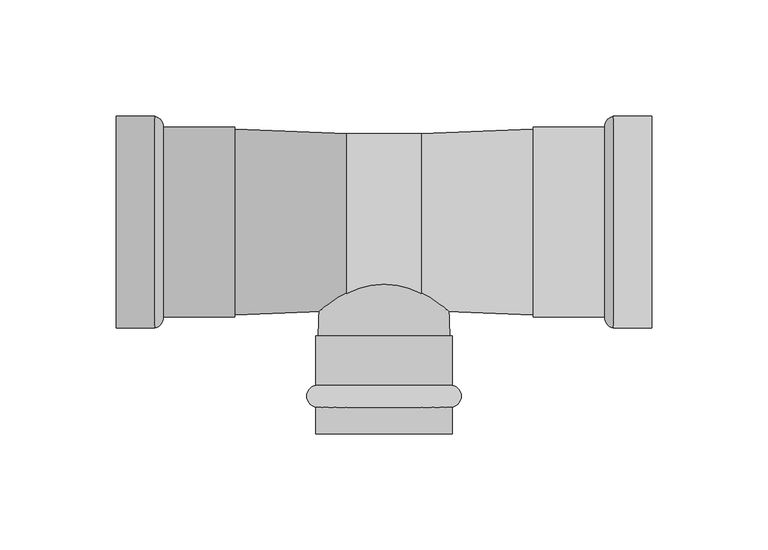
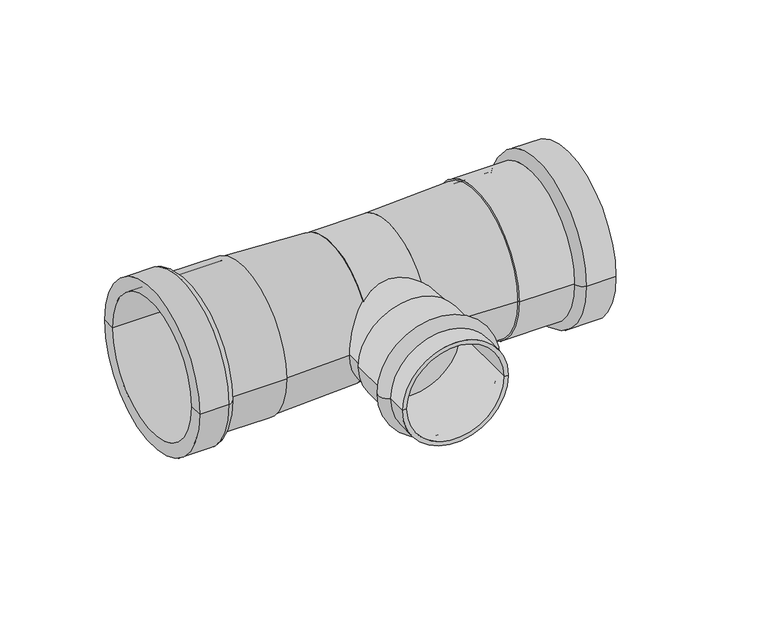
"""IFC4 building model written with IfcOpenShell, lengths in millimetres: pipe fitting geometry, VALTEC_VTi.931.I_Тройник_Ннержавеющая сталь : VTi.931.I."""

from ifc_helpers import new_model, si_unit, point, frame, origin, origin_2d, place, context, project, spatial, polyline, circle_curve, ellipse_curve, trimmed, segment, composite_curve, outline, extrude, source, transform, mapped, element, save
from ifc_brep_helpers import plane_surface, cylinder_surface, revolved_surface, advanced_brep


def pipe_fitting_104a81ea(model_context):
    return source(origin(), model_context, "Body", "SolidModel", [
        advanced_brep(
        [(29.3, -79.6148701, 0.0), (-29.3, -79.6148701, 0.0), (-29.3, -70.1851299, 0.0), (29.3, -70.1851299, 0.0), (29.3, -91.0, 0.0), (-29.3, -91.0, 0.0), (27.0, -91.0, 0.0), (-27.0, -91.0, 0.0), (27.0, -49.0, 0.0), (-27.0, -49.0, 0.0), (29.3, -49.0, 0.0), (-29.3, -49.0, 0.0)],
        [
            (0, 1, circle_curve(frame((0.0, -79.6148701, 0.0), z_axis=(0.0, 1.0, 0.0), x_axis=(-1.0, 0.0, 0.0)), 29.3)),
            (1, 2, circle_curve(frame((-28.4, -74.9, 0.0), z_axis=(0.0, 0.0, -1.0), x_axis=(0.0, 1.0, 0.0)), 4.8)),
            (2, 3, circle_curve(frame((0.0, -70.1851299, 0.0), z_axis=(0.0, -1.0, 0.0), x_axis=(-1.0, 0.0, 0.0)), 29.3)),
            (3, 0, circle_curve(frame((28.4, -74.9, 0.0), z_axis=(0.0, 0.0, -1.0), x_axis=(0.0, 1.0, 0.0)), 4.8)),
            (1, 0, circle_curve(frame((0.0, -79.6148701, 0.0), z_axis=(0.0, 1.0, 0.0), x_axis=(-1.0, 0.0, 0.0)), 29.3)),
            (3, 2, circle_curve(frame((0.0, -70.1851299, 0.0), z_axis=(0.0, -1.0, 0.0), x_axis=(-1.0, 0.0, 0.0)), 29.3)),
            (4, 5, circle_curve(frame((0.0, -91.0, 0.0), z_axis=(0.0, 1.0, 0.0), x_axis=(-1.0, 0.0, 0.0)), 29.3)),
            (5, 1),
            (0, 4),
            (5, 4, circle_curve(frame((0.0, -91.0, 0.0), z_axis=(0.0, 1.0, 0.0), x_axis=(-1.0, 0.0, 0.0)), 29.3)),
            (6, 7, circle_curve(frame((0.0, -91.0, 0.0), z_axis=(0.0, 1.0, 0.0), x_axis=(-1.0, 0.0, 0.0)), 27.0)),
            (7, 5),
            (4, 6),
            (7, 6, circle_curve(frame((0.0, -91.0, 0.0), z_axis=(0.0, 1.0, 0.0), x_axis=(-1.0, 0.0, 0.0)), 27.0)),
            (8, 9, circle_curve(frame((0.0, -49.0, 0.0), z_axis=(0.0, 1.0, 0.0), x_axis=(-1.0, 0.0, 0.0)), 27.0)),
            (9, 7),
            (6, 8),
            (9, 8, circle_curve(frame((0.0, -49.0, 0.0), z_axis=(0.0, 1.0, 0.0), x_axis=(-1.0, 0.0, 0.0)), 27.0)),
            (10, 11, circle_curve(frame((0.0, -49.0, 0.0), z_axis=(0.0, 1.0, 0.0), x_axis=(-1.0, 0.0, 0.0)), 29.3)),
            (11, 9),
            (8, 10),
            (11, 10, circle_curve(frame((0.0, -49.0, 0.0), z_axis=(0.0, 1.0, 0.0), x_axis=(-1.0, 0.0, 0.0)), 29.3)),
            (2, 11),
            (10, 3),
        ],
        [
            revolved_surface(trimmed(ellipse_curve(frame((-28.4, -74.9, 0.0), z_axis=(0.0, 0.0, 1.0), x_axis=(0.0, 1.0, 0.0)), 4.8, 4.8), [point((-29.3, -70.1851299, 0.0))], [point((-29.3, -79.6148701, 0.0))], True, "CARTESIAN"), (0.0, -94.5364426, 0.0), (0.0, -1.0, 0.0)),
            cylinder_surface(frame((0.0, -94.5364426, 0.0), z_axis=(0.0, -1.0, 0.0), x_axis=(-1.0, 0.0, 0.0)), 29.3),
            plane_surface(frame((0.0, -91.0, 0.0), z_axis=(0.0, -1.0, 0.0), x_axis=(-1.0, 0.0, 0.0))),
            revolved_surface(polyline([(-27.0, -91.0, 0.0), (-27.0, -49.0, 0.0)]), (0.0, -94.5364426, 0.0), (0.0, -1.0, 0.0)),
            plane_surface(frame((0.0, -49.0, 0.0), z_axis=(0.0, 1.0, 0.0), x_axis=(-1.0, 0.0, 0.0))),
        ],
        [
            (0, [[1, 2, 3, 4]]),
            (0, [[5, -4, 6, -2]]),
            (1, [[7, 8, -1, 9]]),
            (1, [[10, -9, -5, -8]]),
            (2, [[11, 12, -7, 13]]),
            (2, [[14, -13, -10, -12]]),
            (3, [[15, 16, -11, 17]]),
            (3, [[18, -17, -14, -16]]),
            (4, [[19, 20, -15, 21]]),
            (4, [[22, -21, -18, -20]]),
            (1, [[-3, 23, -19, 24]]),
            (1, [[-6, -24, -22, -23]]),
        ],
    ),
        advanced_brep(
        [(115.0, -38.05, 0.0), (115.0, -45.5, 0.0), (115.0, 45.5, 0.0), (115.0, 38.05, 0.0), (64.19, -38.05, 0.0), (64.19, 38.05, 0.0), (64.19, -40.75, 0.0), (64.19, 40.75, 0.0), (94.75, -40.75, 0.0), (94.75, 40.75, 0.0), (98.6, -45.5, 0.0), (98.6, 45.5, 0.0)],
        [
            (0, 1),
            (1, 2, circle_curve(frame((115.0, 0.0, 0.0), z_axis=(1.0, 0.0, 0.0), x_axis=(0.0, 1.0, 0.0)), 45.5)),
            (2, 3),
            (3, 0, circle_curve(frame((115.0, 0.0, 0.0), z_axis=(-1.0, 0.0, 0.0), x_axis=(0.0, 1.0, 0.0)), 38.05)),
            (2, 1, circle_curve(frame((115.0, 0.0, 0.0), z_axis=(1.0, 0.0, 0.0), x_axis=(0.0, 1.0, 0.0)), 45.5)),
            (0, 3, circle_curve(frame((115.0, 0.0, 0.0), z_axis=(-1.0, 0.0, 0.0), x_axis=(0.0, 1.0, 0.0)), 38.05)),
            (4, 0),
            (3, 5),
            (5, 4, circle_curve(frame((64.19, 0.0, 0.0), z_axis=(-1.0, 0.0, 0.0), x_axis=(0.0, 1.0, 0.0)), 38.05)),
            (4, 5, circle_curve(frame((64.19, 0.0, 0.0), z_axis=(-1.0, 0.0, 0.0), x_axis=(0.0, 1.0, 0.0)), 38.05)),
            (6, 4),
            (5, 7),
            (7, 6, circle_curve(frame((64.19, 0.0, 0.0), z_axis=(-1.0, 0.0, 0.0), x_axis=(0.0, 1.0, 0.0)), 40.75)),
            (6, 7, circle_curve(frame((64.19, 0.0, 0.0), z_axis=(-1.0, 0.0, 0.0), x_axis=(0.0, 1.0, 0.0)), 40.75)),
            (8, 6),
            (7, 9),
            (9, 8, circle_curve(frame((94.75, 0.0, 0.0), z_axis=(-1.0, 0.0, 0.0), x_axis=(0.0, 1.0, 0.0)), 40.75)),
            (8, 9, circle_curve(frame((94.75, 0.0, 0.0), z_axis=(-1.0, 0.0, 0.0), x_axis=(0.0, 1.0, 0.0)), 40.75)),
            (10, 8, circle_curve(frame((99.4665873, -40.862345, 0.0), z_axis=(0.0, 0.0, -1.0), x_axis=(-1.0, 0.0, 0.0)), 4.7179251)),
            (9, 11, circle_curve(frame((99.4665873, 40.862345, 0.0), z_axis=(0.0, 0.0, -1.0), x_axis=(-1.0, 0.0, 0.0)), 4.7179251)),
            (11, 10, circle_curve(frame((98.6, 0.0, 0.0), z_axis=(-1.0, 0.0, 0.0), x_axis=(0.0, 1.0, 0.0)), 45.5)),
            (10, 11, circle_curve(frame((98.6, 0.0, 0.0), z_axis=(-1.0, 0.0, 0.0), x_axis=(0.0, 1.0, 0.0)), 45.5)),
            (1, 10),
            (11, 2),
        ],
        [
            plane_surface(frame((115.0, 0.0, 0.0), z_axis=(1.0, 0.0, 0.0), x_axis=(0.0, 1.0, 0.0))),
            revolved_surface(polyline([(115.0, 38.05, 0.0), (64.19, 38.05, 0.0)]), (85.1506392, 0.0, 0.0), (1.0, 0.0, 0.0)),
            plane_surface(frame((64.19, 0.0, 0.0), z_axis=(-1.0, 0.0, 0.0), x_axis=(0.0, 1.0, 0.0))),
            cylinder_surface(frame((85.1506392, 0.0, 0.0), z_axis=(1.0, 0.0, 0.0), x_axis=(0.0, 1.0, 0.0)), 40.75),
            revolved_surface(trimmed(ellipse_curve(frame((99.4665873, 40.862345, 0.0), z_axis=(0.0, 0.0, -1.0), x_axis=(-1.0, 0.0, 0.0)), 4.7179251, 4.7179251), [point((94.75, 40.75, 0.0))], [point((98.6, 45.5, 0.0))], True, "CARTESIAN"), (85.1506392, 0.0, 0.0), (1.0, 0.0, 0.0)),
            cylinder_surface(frame((85.1506392, 0.0, 0.0), z_axis=(1.0, 0.0, 0.0), x_axis=(0.0, 1.0, 0.0)), 45.5),
        ],
        [
            (0, [[1, 2, 3, 4]]),
            (0, [[-3, 5, -1, 6]]),
            (1, [[7, -4, 8, 9]]),
            (1, [[-8, -6, -7, 10]]),
            (2, [[11, -9, 12, 13]]),
            (2, [[-12, -10, -11, 14]]),
            (3, [[15, -13, 16, 17]]),
            (3, [[-16, -14, -15, 18]]),
            (4, [[19, -17, 20, 21]]),
            (4, [[-20, -18, -19, 22]]),
            (5, [[23, -21, 24, -2]]),
            (5, [[-24, -22, -23, -5]]),
        ],
    ),
        advanced_brep(
        [(-115.0, -38.05, 0.0), (-115.0, 38.05, 0.0), (-115.0, 45.5, 0.0), (-115.0, -45.5, 0.0), (-64.19, -38.05, 0.0), (-64.19, 38.05, 0.0), (-64.19, -40.75, 0.0), (-64.19, 40.75, 0.0), (-94.75, -40.75, 0.0), (-94.75, 40.75, 0.0), (-98.6, -45.5, 0.0), (-98.6, 45.5, 0.0)],
        [
            (0, 1, circle_curve(frame((-115.0, 0.0, 0.0), z_axis=(1.0, 0.0, 0.0), x_axis=(0.0, 1.0, 0.0)), 38.05)),
            (1, 2),
            (2, 3, circle_curve(frame((-115.0, 0.0, 0.0), z_axis=(-1.0, 0.0, 0.0), x_axis=(0.0, 1.0, 0.0)), 45.5)),
            (3, 0),
            (1, 0, circle_curve(frame((-115.0, 0.0, 0.0), z_axis=(1.0, 0.0, 0.0), x_axis=(0.0, 1.0, 0.0)), 38.05)),
            (3, 2, circle_curve(frame((-115.0, 0.0, 0.0), z_axis=(-1.0, 0.0, 0.0), x_axis=(0.0, 1.0, 0.0)), 45.5)),
            (4, 5, circle_curve(frame((-64.19, 0.0, 0.0), z_axis=(1.0, 0.0, 0.0), x_axis=(0.0, 1.0, 0.0)), 38.05)),
            (5, 1),
            (0, 4),
            (5, 4, circle_curve(frame((-64.19, 0.0, 0.0), z_axis=(1.0, 0.0, 0.0), x_axis=(0.0, 1.0, 0.0)), 38.05)),
            (6, 7, circle_curve(frame((-64.19, 0.0, 0.0), z_axis=(1.0, 0.0, 0.0), x_axis=(0.0, 1.0, 0.0)), 40.75)),
            (7, 5),
            (4, 6),
            (7, 6, circle_curve(frame((-64.19, 0.0, 0.0), z_axis=(1.0, 0.0, 0.0), x_axis=(0.0, 1.0, 0.0)), 40.75)),
            (8, 9, circle_curve(frame((-94.75, 0.0, 0.0), z_axis=(1.0, 0.0, 0.0), x_axis=(0.0, 1.0, 0.0)), 40.75)),
            (9, 7),
            (6, 8),
            (9, 8, circle_curve(frame((-94.75, 0.0, 0.0), z_axis=(1.0, 0.0, 0.0), x_axis=(0.0, 1.0, 0.0)), 40.75)),
            (10, 11, circle_curve(frame((-98.6, 0.0, 0.0), z_axis=(1.0, 0.0, 0.0), x_axis=(0.0, 1.0, 0.0)), 45.5)),
            (11, 9, circle_curve(frame((-99.4665873, 40.862345, 0.0), z_axis=(0.0, 0.0, -1.0), x_axis=(1.0, 0.0, 0.0)), 4.7179251)),
            (8, 10, circle_curve(frame((-99.4665873, -40.862345, 0.0), z_axis=(0.0, 0.0, -1.0), x_axis=(1.0, 0.0, 0.0)), 4.7179251)),
            (11, 10, circle_curve(frame((-98.6, 0.0, 0.0), z_axis=(1.0, 0.0, 0.0), x_axis=(0.0, 1.0, 0.0)), 45.5)),
            (2, 11),
            (10, 3),
        ],
        [
            plane_surface(frame((-115.0, 0.0, 0.0), z_axis=(-1.0, 0.0, 0.0), x_axis=(0.0, 1.0, 0.0))),
            revolved_surface(polyline([(-115.0, 38.05, 0.0), (-64.19, 38.05, 0.0)]), (-85.1506392, 0.0, 0.0), (-1.0, 0.0, 0.0)),
            plane_surface(frame((-64.19, 0.0, 0.0), z_axis=(1.0, 0.0, 0.0), x_axis=(0.0, 1.0, 0.0))),
            cylinder_surface(frame((-85.1506392, 0.0, 0.0), z_axis=(-1.0, 0.0, 0.0), x_axis=(0.0, 1.0, 0.0)), 40.75),
            revolved_surface(trimmed(ellipse_curve(frame((-99.4665873, 40.862345, 0.0), z_axis=(0.0, 0.0, 1.0), x_axis=(1.0, 0.0, 0.0)), 4.7179251, 4.7179251), [point((-94.75, 40.75, 0.0))], [point((-98.6, 45.5, 0.0))], True, "CARTESIAN"), (-85.1506392, 0.0, 0.0), (-1.0, 0.0, 0.0)),
            cylinder_surface(frame((-85.1506392, 0.0, 0.0), z_axis=(-1.0, 0.0, 0.0), x_axis=(0.0, 1.0, 0.0)), 45.5),
        ],
        [
            (0, [[1, 2, 3, 4]]),
            (0, [[5, -4, 6, -2]]),
            (1, [[7, 8, -1, 9]]),
            (1, [[10, -9, -5, -8]]),
            (2, [[11, 12, -7, 13]]),
            (2, [[14, -13, -10, -12]]),
            (3, [[15, 16, -11, 17]]),
            (3, [[18, -17, -14, -16]]),
            (4, [[19, 20, -15, 21]]),
            (4, [[22, -21, -18, -20]]),
            (5, [[-3, 23, -19, 24]]),
            (5, [[-6, -24, -22, -23]]),
        ],
    ),
        extrude(outline(composite_curve([segment(trimmed(circle_curve(origin_2d(), 38.05), [point((-38.05, 0.0))], [point((38.05, 0.0))], False, "CARTESIAN"), True, "CONTINUOUS"), segment(trimmed(circle_curve(origin_2d(), 38.05), [point((38.05, 0.0))], [point((-38.05, 0.0))], False, "CARTESIAN"), True, "CONTINUOUS")], self_intersect=False)), frame((-16.0, 0.0, 0.0), z_axis=(1.0, 0.0, 0.0), x_axis=(0.0, 1.0, 0.0)), (0.0, 0.0, 1.0), 32.0),
        advanced_brep(
        [(-28.35, -49.0, 0.0), (28.35, -49.0, 0.0), (-27.0, -11.3209826, 0.0), (27.0, -11.3209826, 0.0)],
        [
            (0, 1, circle_curve(frame((0.0, -49.0, 0.0), z_axis=(0.0, -1.0, 0.0), x_axis=(-1.0, 0.0, 0.0)), 28.35)),
            (1, 0, circle_curve(frame((0.0, -49.0, 0.0), z_axis=(0.0, -1.0, 0.0), x_axis=(1.0, 0.0, 0.0)), 28.35)),
            (2, 3, circle_curve(frame((0.0, -11.3209826, 0.0), z_axis=(0.0, 1.0, 0.0), x_axis=(1.0, 0.0, 0.0)), 27.0)),
            (3, 2, circle_curve(frame((0.0, -11.3209826, 0.0), z_axis=(0.0, 1.0, 0.0), x_axis=(-1.0, 0.0, 0.0)), 27.0)),
            (3, 1),
            (0, 2),
        ],
        [
            plane_surface(frame((0.0, -49.0, 0.0), z_axis=(0.0, -1.0, 0.0), x_axis=(0.0, 0.0, 1.0))),
            plane_surface(frame((0.0, -11.3209826, 0.0), z_axis=(0.0, 1.0, 0.0), x_axis=(0.0, 0.0, 1.0))),
            revolved_surface(polyline([(27.000000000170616, -11.32098259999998, 0.0), (28.35, -49.0, 0.0)]), (0.0, 742.2593655, 0.0), (0.0, -1.0, 0.0)),
            revolved_surface(polyline([(-27.000000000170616, -11.32098259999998, 0.0), (-28.35, -49.0, 0.0)]), (0.0, 742.2593655, 0.0), (0.0, -1.0, 0.0)),
        ],
        [
            (0, [[1, 2]]),
            (1, [[3, 4]]),
            (2, [[-4, 5, -1, 6]]),
            (3, [[-3, -6, -2, -5]]),
        ],
    ),
        extrude(outline(composite_curve([segment(trimmed(circle_curve(origin_2d(), 27.0), [point((0.0, -27.0))], [point((0.0, 27.0))], False, "CARTESIAN"), True, "CONTINUOUS"), segment(trimmed(circle_curve(origin_2d(), 27.0), [point((0.0, 27.0))], [point((0.0, -27.0))], False, "CARTESIAN"), True, "CONTINUOUS")], self_intersect=False)), frame((0.0, -11.3209826, 0.0), z_axis=(0.0, 1.0, 0.0), x_axis=(0.0, 0.0, 1.0)), (0.0, 0.0, 1.0), 11.3209826),
        advanced_brep(
        [(64.2, -39.9525, 0.0), (64.2, 39.9525, 0.0), (16.0, -38.05, 0.0), (16.0, 38.05, 0.0)],
        [
            (0, 1, circle_curve(frame((64.2, 0.0, 0.0), z_axis=(1.0, 0.0, 0.0), x_axis=(0.0, -1.0, 0.0)), 39.9525)),
            (1, 0, circle_curve(frame((64.2, 0.0, 0.0), z_axis=(1.0, 0.0, 0.0), x_axis=(0.0, 1.0, 0.0)), 39.9525)),
            (2, 3, circle_curve(frame((16.0, 0.0, 0.0), z_axis=(-1.0, 0.0, 0.0), x_axis=(0.0, 1.0, 0.0)), 38.05)),
            (3, 2, circle_curve(frame((16.0, 0.0, 0.0), z_axis=(-1.0, 0.0, 0.0), x_axis=(0.0, -1.0, 0.0)), 38.05)),
            (3, 1),
            (0, 2),
        ],
        [
            plane_surface(frame((64.2, 0.0, 0.0), z_axis=(1.0, 0.0, 0.0), x_axis=(0.0, 0.0, 1.0))),
            plane_surface(frame((16.0, 0.0, 0.0), z_axis=(-1.0, 0.0, 0.0), x_axis=(0.0, 0.0, 1.0))),
            revolved_surface(polyline([(16.0, 38.05, 0.0), (64.20000000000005, 39.9525, 0.0)]), (-948.0, 0.0, 0.0), (1.0, 0.0, 0.0)),
            revolved_surface(polyline([(16.0, -38.05, 0.0), (64.20000000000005, -39.9525, 0.0)]), (-948.0, 0.0, 0.0), (1.0, 0.0, 0.0)),
        ],
        [
            (0, [[1, 2]]),
            (1, [[3, 4]]),
            (2, [[-4, 5, -1, 6]]),
            (3, [[-3, -6, -2, -5]]),
        ],
    ),
        advanced_brep(
        [(-64.2, -39.9525, 0.0), (-64.2, 39.9525, 0.0), (-16.0, -38.05, 0.0), (-16.0, 38.05, 0.0)],
        [
            (0, 1, circle_curve(frame((-64.2, 0.0, 0.0), z_axis=(-1.0, 0.0, 0.0), x_axis=(0.0, -1.0, 0.0)), 39.9525)),
            (1, 0, circle_curve(frame((-64.2, 0.0, 0.0), z_axis=(-1.0, 0.0, 0.0), x_axis=(0.0, 1.0, 0.0)), 39.9525)),
            (2, 3, circle_curve(frame((-16.0, 0.0, 0.0), z_axis=(1.0, 0.0, 0.0), x_axis=(0.0, 1.0, 0.0)), 38.05)),
            (3, 2, circle_curve(frame((-16.0, 0.0, 0.0), z_axis=(1.0, 0.0, 0.0), x_axis=(0.0, -1.0, 0.0)), 38.05)),
            (2, 0),
            (1, 3),
        ],
        [
            plane_surface(frame((-64.2, 0.0, 0.0), z_axis=(-1.0, 0.0, 0.0), x_axis=(0.0, 0.0, -1.0))),
            plane_surface(frame((-16.0, 0.0, 0.0), z_axis=(1.0, 0.0, 0.0), x_axis=(0.0, 0.0, -1.0))),
            revolved_surface(polyline([(-16.0, -38.05, 0.0), (-64.20000000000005, -39.9525, 0.0)]), (948.0, 0.0, 0.0), (-1.0, 0.0, 0.0)),
            revolved_surface(polyline([(-16.0, 38.05, 0.0), (-64.20000000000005, 39.9525, 0.0)]), (948.0, 0.0, 0.0), (-1.0, 0.0, 0.0)),
        ],
        [
            (0, [[1, 2]]),
            (1, [[3, 4]]),
            (2, [[-3, 5, -2, 6]]),
            (3, [[-4, -6, -1, -5]]),
        ],
    ),
    ])


if __name__ == "__main__":
    model = new_model("IFC4")
    model_context = context("Model", 3, world=origin())
    ifc_project = project(units=[si_unit("LENGTHUNIT", "METRE", prefix="MILLI")], contexts=[model_context])
    site = spatial("IfcSite", under=ifc_project)
    building = spatial("IfcBuilding", under=site)
    placement = place(None, origin())
    pipe_fitting_shape = pipe_fitting_104a81ea(model_context)
    element("IfcPipeFitting", 1, ObjectType="VALTEC_VTi.931.I_Тройник_Ннержавеющая сталь : VTi.931.I", at=placement, inside=building, context=model_context, shape_type="MappedRepresentation", body=[
        mapped(pipe_fitting_shape, transform((0.0, 0.0, 0.0), x_axis=(1.0, 0.0, 0.0), y_axis=(0.0, 1.0, 0.0), z_axis=(0.0, 0.0, 1.0))),
    ])
    save(model, "model.ifc")
